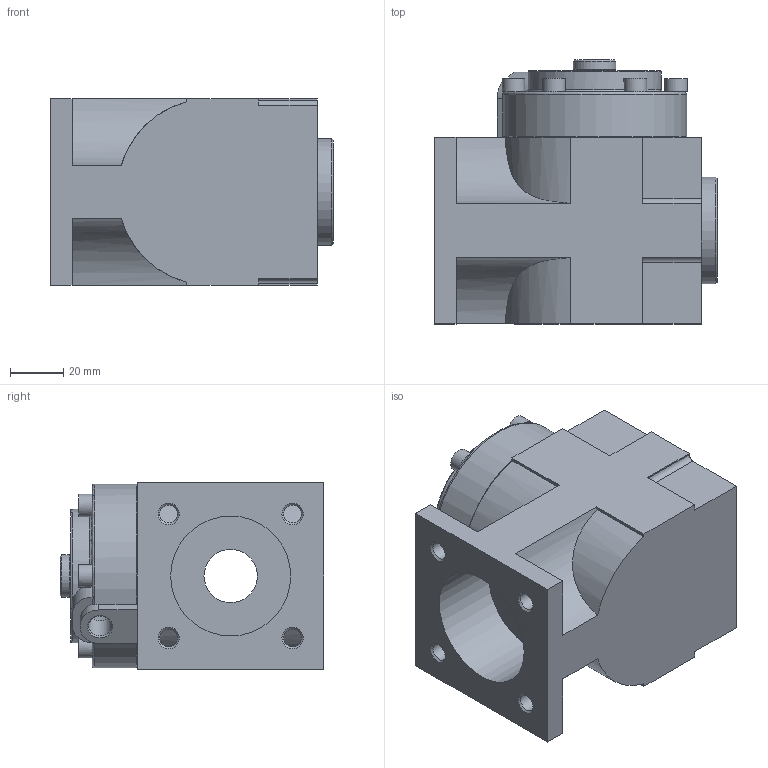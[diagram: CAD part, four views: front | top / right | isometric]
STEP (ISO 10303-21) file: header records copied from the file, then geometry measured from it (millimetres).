
FILE_DESCRIPTION( ( 'STEP AP214' ), ' ' );
FILE_NAME( 'p:/temp/worker_172/4732_4272/app_70_02016022515315859241329192d056f_000000_00_00_000000/format_1/L1-N05020.stp', '2016-02-25T14:32:01', ( '' ), ( '' ), ' ', 'PARTsolutions', ' ' );
FILE_SCHEMA( ( 'AUTOMOTIVE_DESIGN { 1 0 10303 214 1 1 1 1 }' ) );
Length unit declared in the file: millimetre
Products named in the file (1): _L1-N05020
Bounding box: 106 x 99 x 70 mm (x, y, z)
Volume: 452151 mm3; surface area: 56307.9 mm2
Topology: 1 solids, 1 shells, 172 faces, 434 edges, 278 vertices
Faces by surface type: plane 105, cylinder 41, cone 22, torus 4
Full cylindrical faces by diameter (mm): 1.5 x1, 2.5 x2, 6.647 x8, 8.5 x6, 8.566 x1, 16 x1, 20 x1, 28 x1, 40 x1, 45 x1
Entity records: 6386 total; most frequent: CARTESIAN_POINT 1050, DIRECTION 820, ORIENTED_EDGE 744, EDGE_CURVE 372, AXIS2_PLACEMENT_3D 293, VERTEX_POINT 267, EDGE_LOOP 242, LINE 234
